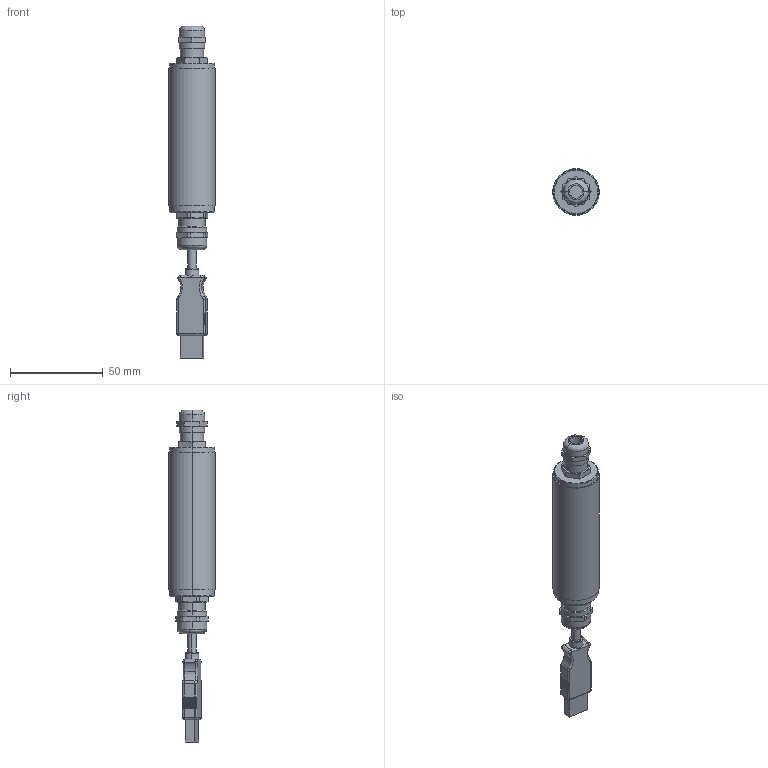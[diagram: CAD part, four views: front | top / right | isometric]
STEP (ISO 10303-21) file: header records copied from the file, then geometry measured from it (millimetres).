
FILE_DESCRIPTION(('STEP AP214'),'1');
FILE_NAME('burster_9206-vx00x_7cn6uj2i6k069xhhbmmotvz3.stp','2017-04-21T16:02:07',('TraceParts'),('TraceParts S.A.'),'Spatial InterOp 3D',' ',' ');
FILE_SCHEMA(('automotive_design'));
Length unit declared in the file: millimetre
Products named in the file (1): burster_9206-vx00x_7cn6uj2i6k069xhhbmmotvz3
Bounding box: 25 x 25 x 178.71 mm (x, y, z)
Volume: 49713.8 mm3; surface area: 11896.2 mm2
Topology: 1 solids, 1 shells, 246 faces, 624 edges, 390 vertices
Faces by surface type: plane 114, cylinder 68, cone 44, bspline 16, torus 4
Entity records: 9707 total; most frequent: CARTESIAN_POINT 1849, DIRECTION 1246, ORIENTED_EDGE 1240, EDGE_CURVE 620, AXIS2_PLACEMENT_3D 485, VERTEX_POINT 390, LINE 276, VECTOR 276
